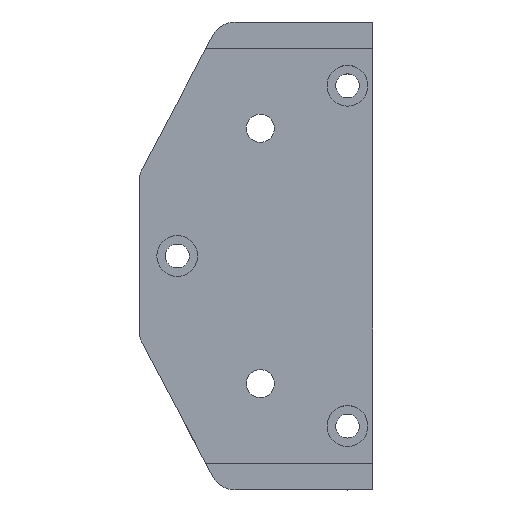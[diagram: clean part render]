
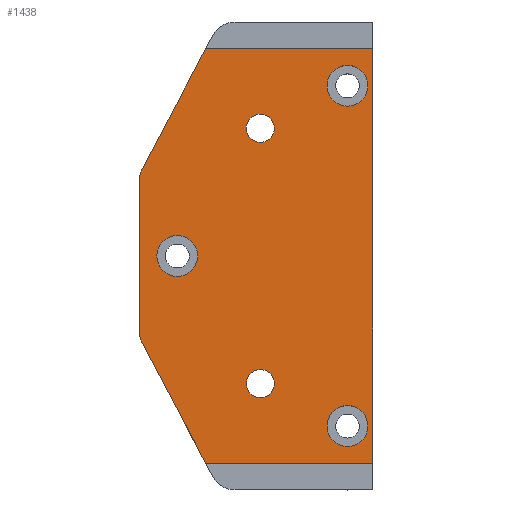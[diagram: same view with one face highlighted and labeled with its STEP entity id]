
A CAD part, top view. The second image highlights one B-rep face of the part: STEP entity #1438.
In plain terms, the highlighted planar face has unit normal (0, 0, 1).
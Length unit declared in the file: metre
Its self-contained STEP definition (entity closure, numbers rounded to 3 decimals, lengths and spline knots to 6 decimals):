
#63=CIRCLE('',#1554,0.00165);
#64=CIRCLE('',#1555,0.00165);
#65=CIRCLE('',#1556,0.0024);
#66=CIRCLE('',#1557,0.0024);
#67=CIRCLE('',#1558,0.0024);
#68=CIRCLE('',#1559,0.003);
#69=CIRCLE('',#1560,0.003);
#157=ORIENTED_EDGE('',*,*,#563,.T.);
#158=ORIENTED_EDGE('',*,*,#564,.T.);
#159=ORIENTED_EDGE('',*,*,#565,.T.);
#160=ORIENTED_EDGE('',*,*,#566,.T.);
#161=ORIENTED_EDGE('',*,*,#567,.T.);
#162=ORIENTED_EDGE('',*,*,#568,.T.);
#163=ORIENTED_EDGE('',*,*,#569,.T.);
#164=ORIENTED_EDGE('',*,*,#570,.T.);
#165=ORIENTED_EDGE('',*,*,#571,.T.);
#166=ORIENTED_EDGE('',*,*,#572,.T.);
#167=ORIENTED_EDGE('',*,*,#573,.T.);
#168=ORIENTED_EDGE('',*,*,#574,.T.);
#169=ORIENTED_EDGE('',*,*,#575,.T.);
#563=EDGE_CURVE('',#763,#763,#63,.T.);
#564=EDGE_CURVE('',#764,#764,#64,.T.);
#565=EDGE_CURVE('',#765,#765,#65,.T.);
#566=EDGE_CURVE('',#766,#766,#66,.T.);
#567=EDGE_CURVE('',#767,#767,#67,.T.);
#568=EDGE_CURVE('',#768,#769,#886,.T.);
#569=EDGE_CURVE('',#769,#770,#887,.T.);
#570=EDGE_CURVE('',#770,#771,#888,.T.);
#571=EDGE_CURVE('',#771,#772,#68,.F.);
#572=EDGE_CURVE('',#772,#773,#889,.T.);
#573=EDGE_CURVE('',#773,#774,#69,.F.);
#574=EDGE_CURVE('',#774,#775,#890,.T.);
#575=EDGE_CURVE('',#775,#768,#891,.T.);
#763=VERTEX_POINT('',#2204);
#764=VERTEX_POINT('',#2206);
#765=VERTEX_POINT('',#2208);
#766=VERTEX_POINT('',#2210);
#767=VERTEX_POINT('',#2212);
#768=VERTEX_POINT('',#2214);
#769=VERTEX_POINT('',#2215);
#770=VERTEX_POINT('',#2217);
#771=VERTEX_POINT('',#2219);
#772=VERTEX_POINT('',#2221);
#773=VERTEX_POINT('',#2223);
#774=VERTEX_POINT('',#2225);
#775=VERTEX_POINT('',#2227);
#886=LINE('',#2213,#1038);
#887=LINE('',#2216,#1039);
#888=LINE('',#2218,#1040);
#889=LINE('',#2222,#1041);
#890=LINE('',#2226,#1042);
#891=LINE('',#2228,#1043);
#1038=VECTOR('',#1760,1.);
#1039=VECTOR('',#1761,1.);
#1040=VECTOR('',#1762,1.);
#1041=VECTOR('',#1765,1.);
#1042=VECTOR('',#1768,1.);
#1043=VECTOR('',#1769,1.);
#1160=EDGE_LOOP('',(#157));
#1161=EDGE_LOOP('',(#158));
#1162=EDGE_LOOP('',(#159));
#1163=EDGE_LOOP('',(#160));
#1164=EDGE_LOOP('',(#161));
#1165=EDGE_LOOP('',(#162,#163,#164,#165,#166,#167,#168,#169));
#1270=FACE_BOUND('',#1160,.T.);
#1271=FACE_BOUND('',#1161,.T.);
#1272=FACE_BOUND('',#1162,.T.);
#1273=FACE_BOUND('',#1163,.T.);
#1274=FACE_BOUND('',#1164,.T.);
#1275=FACE_BOUND('',#1165,.T.);
#1373=PLANE('',#1553);
#1438=ADVANCED_FACE('',(#1270,#1271,#1272,#1273,#1274,#1275),#1373,.F.);
#1553=AXIS2_PLACEMENT_3D('',#2202,#1748,#1749);
#1554=AXIS2_PLACEMENT_3D('',#2203,#1750,#1751);
#1555=AXIS2_PLACEMENT_3D('',#2205,#1752,#1753);
#1556=AXIS2_PLACEMENT_3D('',#2207,#1754,#1755);
#1557=AXIS2_PLACEMENT_3D('',#2209,#1756,#1757);
#1558=AXIS2_PLACEMENT_3D('',#2211,#1758,#1759);
#1559=AXIS2_PLACEMENT_3D('',#2220,#1763,#1764);
#1560=AXIS2_PLACEMENT_3D('',#2224,#1766,#1767);
#1748=DIRECTION('',(0.,0.,-1.));
#1749=DIRECTION('',(-1.,0.,0.));
#1750=DIRECTION('',(0.,0.,-1.));
#1751=DIRECTION('',(-1.,0.,0.));
#1752=DIRECTION('',(0.,0.,-1.));
#1753=DIRECTION('',(-1.,0.,0.));
#1754=DIRECTION('',(0.,0.,-1.));
#1755=DIRECTION('',(-1.,0.,0.));
#1756=DIRECTION('',(0.,0.,-1.));
#1757=DIRECTION('',(-1.,0.,0.));
#1758=DIRECTION('',(0.,0.,-1.));
#1759=DIRECTION('',(-1.,0.,0.));
#1760=DIRECTION('',(0.,1.,0.));
#1761=DIRECTION('',(-1.,0.,0.));
#1762=DIRECTION('',(-0.467,-0.884,0.));
#1763=DIRECTION('',(0.,0.,-1.));
#1764=DIRECTION('',(-1.,0.,0.));
#1765=DIRECTION('',(0.,-1.,0.));
#1766=DIRECTION('',(0.,0.,-1.));
#1767=DIRECTION('',(-1.,0.,0.));
#1768=DIRECTION('',(0.467,-0.884,0.));
#1769=DIRECTION('',(1.,0.,0.));
#2202=CARTESIAN_POINT('',(0.233318,-0.02,0.0049));
#2203=CARTESIAN_POINT('',(-0.01025,-0.005,0.0049));
#2204=CARTESIAN_POINT('',(-0.0119,-0.005,0.0049));
#2205=CARTESIAN_POINT('',(-0.01025,-0.035,0.0049));
#2206=CARTESIAN_POINT('',(-0.0119,-0.035,0.0049));
#2207=CARTESIAN_POINT('',(0.,0.,0.0049));
#2208=CARTESIAN_POINT('',(-0.0024,0.,0.0049));
#2209=CARTESIAN_POINT('',(0.,-0.04,0.0049));
#2210=CARTESIAN_POINT('',(-0.0024,-0.04,0.0049));
#2211=CARTESIAN_POINT('',(-0.02,-0.02,0.0049));
#2212=CARTESIAN_POINT('',(-0.0224,-0.02,0.0049));
#2213=CARTESIAN_POINT('',(0.003,-0.02,0.0049));
#2214=CARTESIAN_POINT('',(0.003,-0.044351,0.0049));
#2215=CARTESIAN_POINT('',(0.003,0.004351,0.0049));
#2216=CARTESIAN_POINT('',(0.233318,0.004351,0.0049));
#2217=CARTESIAN_POINT('',(-0.016662,0.004351,0.0049));
#2218=CARTESIAN_POINT('',(-0.01975,-0.0015,0.0049));
#2219=CARTESIAN_POINT('',(-0.024153,-0.009843,0.0049));
#2220=CARTESIAN_POINT('',(-0.0215,-0.011243,0.0049));
#2221=CARTESIAN_POINT('',(-0.0245,-0.011243,0.0049));
#2222=CARTESIAN_POINT('',(-0.0245,-0.02,0.0049));
#2223=CARTESIAN_POINT('',(-0.0245,-0.028757,0.0049));
#2224=CARTESIAN_POINT('',(-0.0215,-0.028757,0.0049));
#2225=CARTESIAN_POINT('',(-0.024153,-0.030157,0.0049));
#2226=CARTESIAN_POINT('',(-0.01975,-0.0385,0.0049));
#2227=CARTESIAN_POINT('',(-0.016662,-0.044351,0.0049));
#2228=CARTESIAN_POINT('',(0.233318,-0.044351,0.0049));
